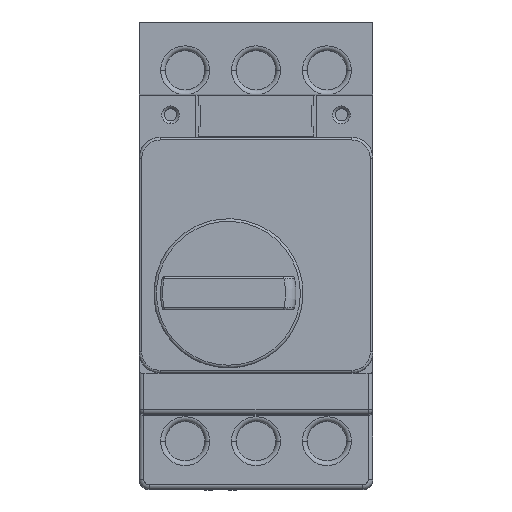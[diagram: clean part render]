
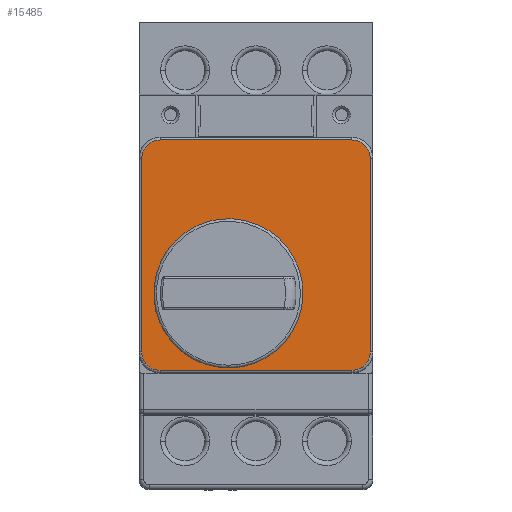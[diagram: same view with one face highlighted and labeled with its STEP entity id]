
A CAD part, top view. The second image highlights one B-rep face of the part: STEP entity #15485.
In plain terms, the highlighted planar face has unit normal (0, 0, 1).
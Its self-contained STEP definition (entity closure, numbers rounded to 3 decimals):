
#4924=CARTESIAN_POINT('',(17.,37.3,80.9));
#4925=DIRECTION('',(0.,0.,1.));
#4926=DIRECTION('',(-0.996,0.093,0.));
#4927=AXIS2_PLACEMENT_3D('',#4924,#4925,#4926);
#4929=CARTESIAN_POINT('',(40.5,22.632,80.9));
#4930=CARTESIAN_POINT('',(40.779,22.632,80.9));
#4931=CARTESIAN_POINT('',(41.315,22.698,80.9));
#4932=CARTESIAN_POINT('',(42.059,22.966,80.9));
#4933=CARTESIAN_POINT('',(42.733,23.397,80.9));
#4934=CARTESIAN_POINT('',(43.295,23.979,80.9));
#4935=CARTESIAN_POINT('',(43.678,24.61,80.9));
#4936=CARTESIAN_POINT('',(43.929,25.302,80.9));
#4937=CARTESIAN_POINT('',(44.,25.844,80.9));
#4938=CARTESIAN_POINT('',(44.,26.133,80.9));
#4940=DIRECTION('',(1.,0.,0.));
#4941=VECTOR('',#4940,36.5);
#4942=CARTESIAN_POINT('',(4.,22.632,80.9));
#4943=LINE('',#4942,#4941);
#4944=CARTESIAN_POINT('',(0.5,26.133,80.9));
#4945=CARTESIAN_POINT('',(0.5,25.848,80.9));
#4946=CARTESIAN_POINT('',(0.568,25.301,80.9));
#4947=CARTESIAN_POINT('',(0.847,24.544,80.9));
#4948=CARTESIAN_POINT('',(1.294,23.863,80.9));
#4949=CARTESIAN_POINT('',(1.891,23.303,80.9));
#4950=CARTESIAN_POINT('',(2.519,22.937,80.9));
#4951=CARTESIAN_POINT('',(3.178,22.704,80.9));
#4952=CARTESIAN_POINT('',(3.714,22.632,80.9));
#4953=CARTESIAN_POINT('',(4.,22.632,80.9));
#4955=DIRECTION('',(0.,-1.,0.));
#4956=VECTOR('',#4955,36.867);
#4957=CARTESIAN_POINT('',(0.5,63.,80.9));
#4958=LINE('',#4957,#4956);
#4959=CARTESIAN_POINT('',(4.,63.,80.9));
#4960=DIRECTION('',(0.,0.,1.));
#4961=DIRECTION('',(0.,1.,0.));
#4962=AXIS2_PLACEMENT_3D('',#4959,#4960,#4961);
#4964=DIRECTION('',(-1.,0.,0.));
#4965=VECTOR('',#4964,36.5);
#4966=CARTESIAN_POINT('',(40.5,66.5,80.9));
#4967=LINE('',#4966,#4965);
#4968=CARTESIAN_POINT('',(40.5,63.,80.9));
#4969=DIRECTION('',(0.,0.,1.));
#4970=DIRECTION('',(1.,0.,0.));
#4971=AXIS2_PLACEMENT_3D('',#4968,#4969,#4970);
#4973=DIRECTION('',(0.,1.,0.));
#4974=VECTOR('',#4973,36.867);
#4975=CARTESIAN_POINT('',(44.,26.133,80.9));
#4976=LINE('',#4975,#4974);
#4982=CARTESIAN_POINT('',(17.,37.3,80.9));
#4983=DIRECTION('',(0.,0.,-1.));
#4984=DIRECTION('',(-0.996,0.093,0.));
#4985=AXIS2_PLACEMENT_3D('',#4982,#4983,#4984);
#6817=CARTESIAN_POINT('',(2.862,38.625,80.9));
#6818=CARTESIAN_POINT('',(17.,23.1,80.9));
#6819=VERTEX_POINT('',#6817);
#6820=VERTEX_POINT('',#6818);
#6993=VERTEX_POINT('',#4929);
#6994=VERTEX_POINT('',#4938);
#6997=CARTESIAN_POINT('',(44.,63.,80.9));
#6998=VERTEX_POINT('',#6997);
#7001=CARTESIAN_POINT('',(40.5,66.5,80.9));
#7002=VERTEX_POINT('',#7001);
#7005=CARTESIAN_POINT('',(4.,66.5,80.9));
#7006=VERTEX_POINT('',#7005);
#7009=CARTESIAN_POINT('',(0.5,63.,80.9));
#7010=VERTEX_POINT('',#7009);
#7013=CARTESIAN_POINT('',(0.5,26.133,80.9));
#7014=VERTEX_POINT('',#7013);
#7017=VERTEX_POINT('',#4953);
#15457=CARTESIAN_POINT('',(44.5,22.,80.9));
#15458=DIRECTION('',(0.,0.,1.));
#15459=DIRECTION('',(0.,1.,0.));
#15460=AXIS2_PLACEMENT_3D('',#15457,#15458,#15459);
#15461=PLANE('',#15460);
#15463=ORIENTED_EDGE('',*,*,#15462,.F.);
#15465=ORIENTED_EDGE('',*,*,#15464,.F.);
#15467=ORIENTED_EDGE('',*,*,#15466,.F.);
#15469=ORIENTED_EDGE('',*,*,#15468,.F.);
#15471=ORIENTED_EDGE('',*,*,#15470,.F.);
#15473=ORIENTED_EDGE('',*,*,#15472,.F.);
#15475=ORIENTED_EDGE('',*,*,#15474,.F.);
#15476=ORIENTED_EDGE('',*,*,#15447,.F.);
#15477=EDGE_LOOP('',(#15463,#15465,#15467,#15469,#15471,#15473,#15475,#15476));
#15478=FACE_OUTER_BOUND('',#15477,.F.);
#15480=ORIENTED_EDGE('',*,*,#15479,.F.);
#15482=ORIENTED_EDGE('',*,*,#15481,.T.);
#15483=EDGE_LOOP('',(#15480,#15482));
#15484=FACE_BOUND('',#15483,.F.);
#15485=ADVANCED_FACE('',(#15478,#15484),#15461,.T.);
#4928=CIRCLE('',#4927,14.2);
#4939=B_SPLINE_CURVE_WITH_KNOTS('',3,(#4929,#4930,#4931,#4932,#4933,#4934,#4935,
#4936,#4937,#4938),.UNSPECIFIED.,.F.,.F.,(4,1,1,1,1,1,1,4),(0.,
0.143,0.286,0.429,0.571,
0.714,0.857,1.),.UNSPECIFIED.);
#4954=B_SPLINE_CURVE_WITH_KNOTS('',3,(#4944,#4945,#4946,#4947,#4948,#4949,#4950,
#4951,#4952,#4953),.UNSPECIFIED.,.F.,.F.,(4,1,1,1,1,1,1,4),(0.,
0.143,0.286,0.429,0.571,
0.714,0.857,1.),.UNSPECIFIED.);
#4963=CIRCLE('',#4962,3.5);
#4972=CIRCLE('',#4971,3.5);
#4986=CIRCLE('',#4985,14.2);
#15447=EDGE_CURVE('',#6994,#6998,#4976,.T.);
#15462=EDGE_CURVE('',#6993,#6994,#4939,.T.);
#15464=EDGE_CURVE('',#7017,#6993,#4943,.T.);
#15466=EDGE_CURVE('',#7014,#7017,#4954,.T.);
#15468=EDGE_CURVE('',#7010,#7014,#4958,.T.);
#15470=EDGE_CURVE('',#7006,#7010,#4963,.T.);
#15472=EDGE_CURVE('',#7002,#7006,#4967,.T.);
#15474=EDGE_CURVE('',#6998,#7002,#4972,.T.);
#15479=EDGE_CURVE('',#6819,#6820,#4986,.T.);
#15481=EDGE_CURVE('',#6819,#6820,#4928,.T.);
